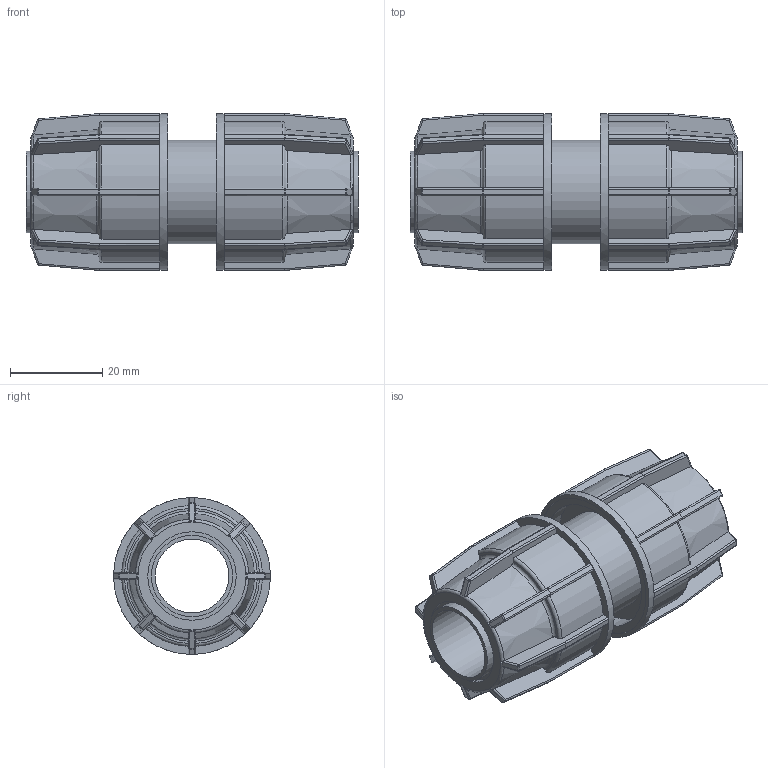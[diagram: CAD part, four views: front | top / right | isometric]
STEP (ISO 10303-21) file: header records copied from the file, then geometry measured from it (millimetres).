
FILE_DESCRIPTION(/* description */ ('PLASSON IRRIFIT COUPLER 16-16'),/* implementation_level */ '2;1');
FILE_NAME(/* name */ 'C:\Dropbox\KIMPROJECTS-Inventor\99-16-3568-Processing\Silver+MF ISRAEL\040107\040107016.ipt.stp',/* time_stamp */ '2018-04-09T12:59:29+03:00',/* author */ ('KIM'),/* organization */ (''),/* preprocessor_version */ 'ST-DEVELOPER v15.6',/* originating_system */ 'Autodesk Inventor 2015',/* authorisation */ '');
FILE_SCHEMA (('AUTOMOTIVE_DESIGN { 1 0 10303 214 3 1 1 }'));
Length unit declared in the file: millimetre
Products named in the file (1): 040107016
Bounding box: 72 x 34 x 34 mm (x, y, z)
Volume: 27805.4 mm3; surface area: 15538.2 mm2
Topology: 1 solids, 1 shells, 522 faces, 1255 edges, 721 vertices
Faces by surface type: plane 236, cylinder 156, sphere 64, torus 34, bspline 16, cone 16
Full cylindrical faces by diameter (mm): 16 x1, 17.6 x2, 19.2 x2, 22.4 x1, 28.9 x2, 32.3 x2, 34 x2
Entity records: 15904 total; most frequent: CARTESIAN_POINT 4551, ORIENTED_EDGE 2380, DIRECTION 2354, EDGE_CURVE 1190, AXIS2_PLACEMENT_3D 945, VERTEX_POINT 694, EDGE_LOOP 548, FACE_OUTER_BOUND 522
